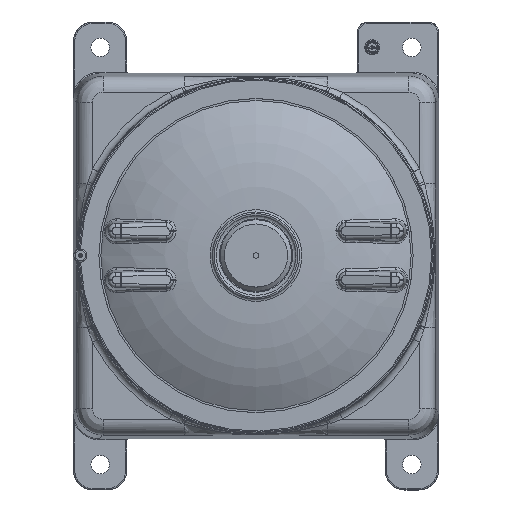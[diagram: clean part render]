
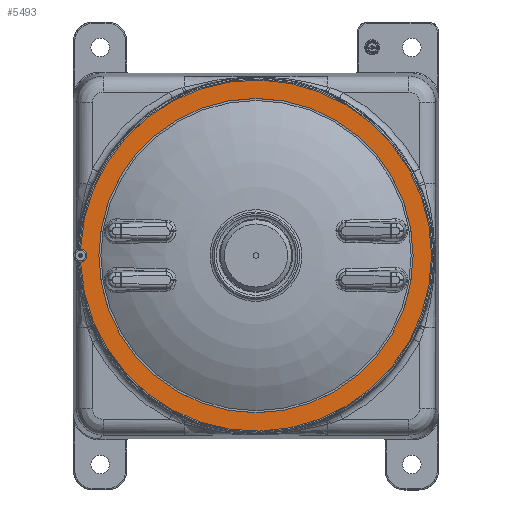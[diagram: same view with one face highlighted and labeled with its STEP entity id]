
A CAD part, top view. The second image highlights one B-rep face of the part: STEP entity #5493.
In plain terms, the highlighted planar face has unit normal (0, 0, 1) as drawn and (0, 0, -1) by its records, which use the part's own axes.
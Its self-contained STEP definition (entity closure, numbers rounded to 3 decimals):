
#5493=ADVANCED_FACE('',(#21126,#21128),#21130,.T.);
#21126=FACE_BOUND('',#21127,.T.);
#21127=EDGE_LOOP('',(#26662,#26663,#26664,#26665));
#21128=FACE_BOUND('',#21129,.T.);
#21129=EDGE_LOOP('',(#26666));
#21130=PLANE('',#21131);
#21131=AXIS2_PLACEMENT_3D('',#21132,#21133,#21134);
#21132=CARTESIAN_POINT('',(0.,0.,-35.));
#21133=DIRECTION('',(0.,0.,-1.));
#21134=DIRECTION('',(-1.,-0.,0.));
#26662=ORIENTED_EDGE('',*,*,#29078,.F.);
#26663=ORIENTED_EDGE('',*,*,#29079,.F.);
#26664=ORIENTED_EDGE('',*,*,#29080,.F.);
#26665=ORIENTED_EDGE('',*,*,#29081,.T.);
#26666=ORIENTED_EDGE('',*,*,#28901,.T.);
#28901=EDGE_CURVE('',#31273,#31273,#31274,.F.);
#29078=EDGE_CURVE('',#31531,#31532,#31533,.F.);
#29079=EDGE_CURVE('',#31534,#31531,#31535,.T.);
#29080=EDGE_CURVE('',#31536,#31534,#31537,.T.);
#29081=EDGE_CURVE('',#31536,#31532,#31538,.T.);
#31273=VERTEX_POINT('',#44079);
#31274=CIRCLE('',#44080,119.026);
#31531=VERTEX_POINT('',#45308);
#31532=VERTEX_POINT('',#45309);
#31533=B_SPLINE_CURVE_WITH_KNOTS('',3,
(#45310,#45311,#45312,#45313,#45314,#45315,#45316,#45317,#45318,#45319,#45320,#45321,
#45322,#45323,#45324,#45325),
.UNSPECIFIED.,.F.,.F.,
(4,1,1,1,1,1,1,1,1,1,1,1,1,4),
(0.,0.073,0.147,0.22,0.309,0.394,
0.475,0.547,0.628,0.72,0.812,
0.894,0.956,1.),
.UNSPECIFIED.);
#31534=VERTEX_POINT('',#45326);
#31535=CIRCLE('',#45327,4.974);
#31536=VERTEX_POINT('',#45331);
#31537=B_SPLINE_CURVE_WITH_KNOTS('',3,
(#45332,#45333,#45334,#45335,#45336,#45337,#45338,#45339,#45340,#45341,#45342,#45343,
#45344,#45345,#45346,#45347),
.UNSPECIFIED.,.F.,.F.,
(4,1,1,1,1,1,1,1,1,1,1,1,1,4),
(0.,0.045,0.106,0.181,0.261,0.329,
0.405,0.501,0.608,0.708,0.8,
0.883,0.949,1.),
.UNSPECIFIED.);
#31538=CIRCLE('',#45348,132.974);
#44079=CARTESIAN_POINT('',(-119.026,0.,-35.));
#44080=AXIS2_PLACEMENT_3D('',#44081,#44082,#44083);
#44081=CARTESIAN_POINT('',(0.,0.,-35.));
#44082=DIRECTION('',(0.,0.,-1.));
#44083=DIRECTION('',(-1.,0.,0.));
#45308=CARTESIAN_POINT('',(-133.702,-4.924,-35.));
#45309=CARTESIAN_POINT('',(-132.844,-5.87,-35.));
#45310=CARTESIAN_POINT('',(-132.844,-5.87,-35.));
#45311=CARTESIAN_POINT('',(-132.846,-5.836,-35.));
#45312=CARTESIAN_POINT('',(-132.852,-5.768,-35.));
#45313=CARTESIAN_POINT('',(-132.872,-5.668,-35.));
#45314=CARTESIAN_POINT('',(-132.904,-5.564,-35.));
#45315=CARTESIAN_POINT('',(-132.95,-5.459,-35.));
#45316=CARTESIAN_POINT('',(-133.009,-5.358,-35.));
#45317=CARTESIAN_POINT('',(-133.075,-5.27,-35.));
#45318=CARTESIAN_POINT('',(-133.149,-5.191,-35.));
#45319=CARTESIAN_POINT('',(-133.235,-5.117,-35.));
#45320=CARTESIAN_POINT('',(-133.337,-5.048,-35.));
#45321=CARTESIAN_POINT('',(-133.447,-4.993,-35.));
#45322=CARTESIAN_POINT('',(-133.549,-4.956,-35.));
#45323=CARTESIAN_POINT('',(-133.634,-4.935,-35.));
#45324=CARTESIAN_POINT('',(-133.682,-4.927,-35.));
#45325=CARTESIAN_POINT('',(-133.702,-4.924,-35.));
#45326=CARTESIAN_POINT('',(-133.702,4.924,-35.));
#45327=AXIS2_PLACEMENT_3D('',#45328,#45329,#45330);
#45328=CARTESIAN_POINT('',(-133.,0.,-35.));
#45329=DIRECTION('',(0.,0.,-1.));
#45330=DIRECTION('',(-0.141,0.99,0.));
#45331=CARTESIAN_POINT('',(-132.844,5.87,-35.));
#45332=CARTESIAN_POINT('',(-132.844,5.87,-35.));
#45333=CARTESIAN_POINT('',(-132.845,5.849,-35.));
#45334=CARTESIAN_POINT('',(-132.849,5.8,-35.));
#45335=CARTESIAN_POINT('',(-132.861,5.717,-35.));
#45336=CARTESIAN_POINT('',(-132.885,5.62,-35.));
#45337=CARTESIAN_POINT('',(-132.921,5.524,-35.));
#45338=CARTESIAN_POINT('',(-132.966,5.431,-35.));
#45339=CARTESIAN_POINT('',(-133.024,5.336,-35.));
#45340=CARTESIAN_POINT('',(-133.104,5.235,-35.));
#45341=CARTESIAN_POINT('',(-133.206,5.138,-35.));
#45342=CARTESIAN_POINT('',(-133.319,5.059,-35.));
#45343=CARTESIAN_POINT('',(-133.432,5.,-35.));
#45344=CARTESIAN_POINT('',(-133.536,4.96,-35.));
#45345=CARTESIAN_POINT('',(-133.625,4.937,-35.));
#45346=CARTESIAN_POINT('',(-133.679,4.927,-35.));
#45347=CARTESIAN_POINT('',(-133.702,4.924,-35.));
#45348=AXIS2_PLACEMENT_3D('',#45349,#45350,#45351);
#45349=CARTESIAN_POINT('',(0.,0.,-35.));
#45350=DIRECTION('',(0.,0.,-1.));
#45351=DIRECTION('',(-0.999,0.044,0.));
